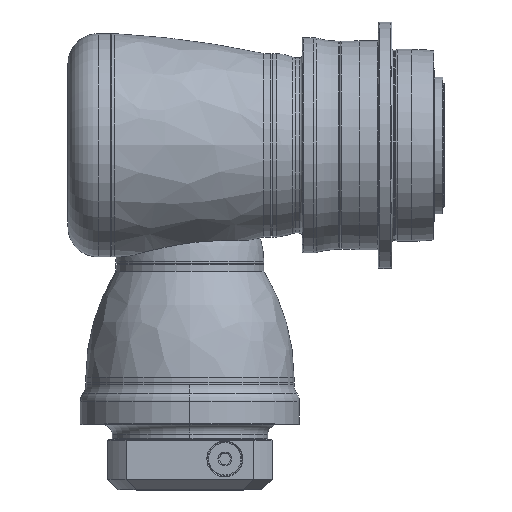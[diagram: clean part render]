
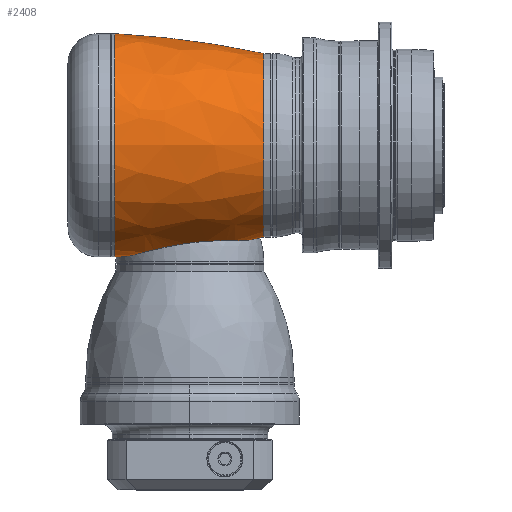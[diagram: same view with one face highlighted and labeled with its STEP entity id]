
A CAD part, top view. The second image highlights one B-rep face of the part: STEP entity #2408.
In plain terms, the highlighted free-form (B-spline) face has degree [3, 3] with [7, 4] control points.
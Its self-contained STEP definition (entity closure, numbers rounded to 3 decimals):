
#143=CARTESIAN_POINT('',(-92.521,617.494,
0.));
#144=DIRECTION('',(0.,0.,-1.));
#145=DIRECTION('',(0.064,-0.998,0.));
#146=AXIS2_PLACEMENT_3D('',#143,#144,#145);
#148=CARTESIAN_POINT('',(-92.521,617.494,
0.));
#149=DIRECTION('',(0.,0.,-1.));
#150=DIRECTION('',(0.209,-0.978,0.));
#151=AXIS2_PLACEMENT_3D('',#148,#149,#150);
#158=CARTESIAN_POINT('',(-92.521,-617.494,
0.));
#159=DIRECTION('',(0.,0.,1.));
#160=DIRECTION('',(0.209,0.978,0.));
#161=AXIS2_PLACEMENT_3D('',#158,#159,#160);
#183=CARTESIAN_POINT('',(-55.,81.498,0.556));
#185=CARTESIAN_POINT('',(-55.,0.,0.));
#186=DIRECTION('',(1.,0.,0.));
#187=DIRECTION('',(0.,1.,0.007));
#188=AXIS2_PLACEMENT_3D('',#185,#186,#187);
#876=CARTESIAN_POINT('',(-54.763,81.487,
0.));
#877=CARTESIAN_POINT('',(-54.763,81.487,0.104));
#878=CARTESIAN_POINT('',(-54.805,81.489,0.311));
#879=CARTESIAN_POINT('',(-54.925,81.495,0.485));
#880=CARTESIAN_POINT('',(-55.,81.498,0.556));
#882=CARTESIAN_POINT('',(54.,0.,0.));
#883=DIRECTION('',(1.,0.,0.));
#884=DIRECTION('',(0.,1.,0.));
#885=AXIS2_PLACEMENT_3D('',#882,#883,#884);
#887=CARTESIAN_POINT('',(-47.703,-81.07,0.));
#888=CARTESIAN_POINT('',(-46.711,-81.006,1.883));
#889=CARTESIAN_POINT('',(-44.473,-80.728,5.573));
#890=CARTESIAN_POINT('',(-40.271,-79.881,10.825));
#891=CARTESIAN_POINT('',(-35.457,-78.725,15.432));
#892=CARTESIAN_POINT('',(-30.052,-77.36,19.386));
#893=CARTESIAN_POINT('',(-24.133,-75.891,22.612));
#894=CARTESIAN_POINT('',(-17.681,-74.404,25.078));
#895=CARTESIAN_POINT('',(-10.911,-73.028,26.68));
#896=CARTESIAN_POINT('',(-3.939,-71.853,27.373));
#897=CARTESIAN_POINT('',(2.54,-70.989,27.228));
#898=CARTESIAN_POINT('',(9.265,-70.327,26.29));
#899=CARTESIAN_POINT('',(15.865,-69.908,24.519));
#900=CARTESIAN_POINT('',(22.183,-69.694,21.955));
#901=CARTESIAN_POINT('',(27.994,-69.62,18.707));
#902=CARTESIAN_POINT('',(33.264,-69.595,14.827));
#903=CARTESIAN_POINT('',(37.917,-69.53,10.394));
#904=CARTESIAN_POINT('',(41.953,-69.326,5.394));
#905=CARTESIAN_POINT('',(44.113,-69.043,1.827));
#906=CARTESIAN_POINT('',(45.059,-68.853,
0.));
#1038=CARTESIAN_POINT('',(54.,67.,0.));
#1039=CARTESIAN_POINT('',(54.,-67.,0.));
#1040=VERTEX_POINT('',#1038);
#1041=VERTEX_POINT('',#1039);
#1042=CARTESIAN_POINT('',(45.059,-68.853,
0.));
#1043=VERTEX_POINT('',#1042);
#1044=CARTESIAN_POINT('',(-47.703,-81.07,
0.));
#1045=CARTESIAN_POINT('',(-55.,-81.5,0.));
#1046=VERTEX_POINT('',#1044);
#1047=VERTEX_POINT('',#1045);
#1208=VERTEX_POINT('',#183);
#1213=VERTEX_POINT('',#876);
#2369=CARTESIAN_POINT('',(-57.198,81.453,
-5.125));
#2370=CARTESIAN_POINT('',(-19.046,79.53,
-5.004));
#2371=CARTESIAN_POINT('',(18.822,74.502,-4.687));
#2372=CARTESIAN_POINT('',(56.152,66.405,-4.178));
#2373=CARTESIAN_POINT('',(-57.198,84.607,45.002));
#2374=CARTESIAN_POINT('',(-19.046,82.609,43.939));
#2375=CARTESIAN_POINT('',(18.822,77.387,41.161));
#2376=CARTESIAN_POINT('',(56.152,68.976,36.687));
#2377=CARTESIAN_POINT('',(-57.198,50.225,81.615));
#2378=CARTESIAN_POINT('',(-19.046,49.039,79.687));
#2379=CARTESIAN_POINT('',(18.822,45.939,74.649));
#2380=CARTESIAN_POINT('',(56.152,40.946,66.536));
#2381=CARTESIAN_POINT('',(-57.198,0.,81.615));
#2382=CARTESIAN_POINT('',(-19.046,0.,
79.687));
#2383=CARTESIAN_POINT('',(18.822,0.,74.649));
#2384=CARTESIAN_POINT('',(56.152,0.,66.536));
#2385=CARTESIAN_POINT('',(-57.198,-50.225,
81.615));
#2386=CARTESIAN_POINT('',(-19.046,-49.039,
79.687));
#2387=CARTESIAN_POINT('',(18.822,-45.939,74.649));
#2388=CARTESIAN_POINT('',(56.152,-40.946,66.536));
#2389=CARTESIAN_POINT('',(-57.198,-84.607,
45.002));
#2390=CARTESIAN_POINT('',(-19.046,-82.609,
43.939));
#2391=CARTESIAN_POINT('',(18.822,-77.387,41.161));
#2392=CARTESIAN_POINT('',(56.152,-68.976,36.687));
#2393=CARTESIAN_POINT('',(-57.198,-81.453,
-5.125));
#2394=CARTESIAN_POINT('',(-19.046,-79.53,
-5.004));
#2395=CARTESIAN_POINT('',(18.822,-74.502,
-4.687));
#2396=CARTESIAN_POINT('',(56.152,-66.405,
-4.178));
#2397=(BOUNDED_SURFACE()B_SPLINE_SURFACE(3,3,((#2369,#2370,#2371,#2372),(#2373,
#2374,#2375,#2376),(#2377,#2378,#2379,#2380),(#2381,#2382,#2383,#2384),(#2385,
#2386,#2387,#2388),(#2389,#2390,#2391,#2392),(#2393,#2394,#2395,#2396)),
.UNSPECIFIED.,.F.,.F.,.F.)B_SPLINE_SURFACE_WITH_KNOTS((4,3,4),(4,4),(0.,1.,
2.),(0.,1.),.UNSPECIFIED.)GEOMETRIC_REPRESENTATION_ITEM()RATIONAL_B_SPLINE_SURFACE(((1.189,1.187,1.187,1.189),(
0.939,0.937,0.937,0.939),(
0.939,0.937,0.937,0.939),(
1.189,1.187,1.187,1.189),(
0.939,0.937,0.937,0.939),(
0.939,0.937,0.937,0.939),(
1.189,1.187,1.187,1.189)))REPRESENTATION_ITEM('')SURFACE());
#2398=ORIENTED_EDGE('',*,*,#1376,.F.);
#2399=ORIENTED_EDGE('',*,*,#1357,.F.);
#2400=ORIENTED_EDGE('',*,*,#2351,.T.);
#2401=ORIENTED_EDGE('',*,*,#1353,.T.);
#2403=ORIENTED_EDGE('',*,*,#2402,.F.);
#2404=ORIENTED_EDGE('',*,*,#1346,.T.);
#2405=ORIENTED_EDGE('',*,*,#1389,.F.);
#2406=EDGE_LOOP('',(#2398,#2399,#2400,#2401,#2403,#2404,#2405));
#2407=FACE_OUTER_BOUND('',#2406,.F.);
#2408=ADVANCED_FACE('',(#2407),#2397,.T.);
#147=CIRCLE('',#146,700.);
#152=CIRCLE('',#151,700.);
#162=CIRCLE('',#161,700.);
#189=CIRCLE('',#188,81.5);
#881=B_SPLINE_CURVE_WITH_KNOTS('',3,(#876,#877,#878,#879,#880),.UNSPECIFIED.,
.F.,.F.,(4,1,4),(0.,0.5,1.),.UNSPECIFIED.);
#886=CIRCLE('',#885,67.);
#907=B_SPLINE_CURVE_WITH_KNOTS('',3,(#887,#888,#889,#890,#891,#892,#893,#894,
#895,#896,#897,#898,#899,#900,#901,#902,#903,#904,#905,#906),.UNSPECIFIED.,.F.,
.F.,(4,1,1,1,1,1,1,1,1,1,1,1,1,1,1,1,1,4),(0.,0.059,
0.118,0.176,0.235,0.294,
0.353,0.412,0.471,0.529,
0.588,0.647,0.706,0.765,
0.824,0.882,0.941,1.),.UNSPECIFIED.);
#1346=EDGE_CURVE('',#1046,#1047,#147,.T.);
#1353=EDGE_CURVE('',#1041,#1043,#152,.T.);
#1357=EDGE_CURVE('',#1040,#1213,#162,.T.);
#1376=EDGE_CURVE('',#1213,#1208,#881,.T.);
#1389=EDGE_CURVE('',#1208,#1047,#189,.T.);
#2351=EDGE_CURVE('',#1040,#1041,#886,.T.);
#2402=EDGE_CURVE('',#1046,#1043,#907,.T.);
